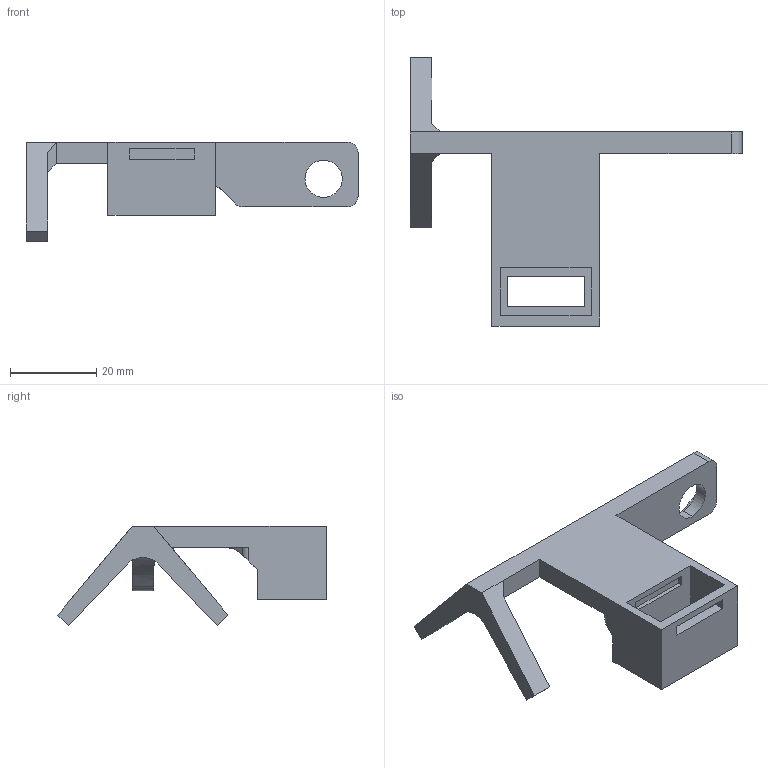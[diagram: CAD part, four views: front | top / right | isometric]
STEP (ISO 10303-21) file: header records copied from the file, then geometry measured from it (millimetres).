
FILE_DESCRIPTION (( 'STEP AP203' ), '1' );
FILE_NAME ('fin_triangular v2.STEP', '2024-07-13T16:28:24', ( '' ), ( '' ), 'SwSTEP 2.0', 'SolidWorks 2020', '' );
FILE_SCHEMA (( 'CONFIG_CONTROL_DESIGN' ));
Length unit declared in the file: millimetre
Products named in the file (1): fin_triangular v2
Bounding box: 76.98 x 62.22 x 23.12 mm (x, y, z)
Volume: 10237.2 mm3; surface area: 7525.4 mm2
Topology: 1 solids, 1 shells, 74 faces, 205 edges, 135 vertices
Faces by surface type: plane 52, cylinder 21, bspline 1
Entity records: 2634 total; most frequent: CARTESIAN_POINT 643, ORIENTED_EDGE 410, DIRECTION 377, EDGE_CURVE 205, VECTOR 159, LINE 159, VERTEX_POINT 135, AXIS2_PLACEMENT_3D 109
